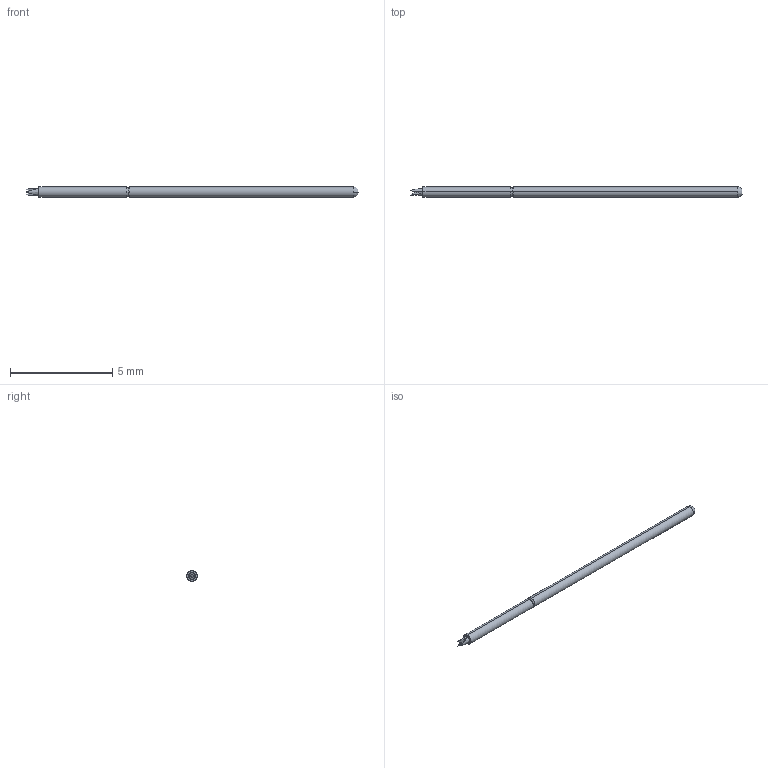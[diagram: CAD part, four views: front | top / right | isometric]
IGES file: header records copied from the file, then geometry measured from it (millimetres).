
Start section: SolidWorks IGES file using analytic representation for surfaces
Global section: file name: Z:\probe solid model mockups\Solidworks models\MEP-30 IGS files\MEP-30U RECD.IGS; native system: SolidWorks 2006 by SolidWorks Corporation; preprocessor: SolidWorks 2006 by SolidWorks Corporation; author: tsakatani; date: 071219.101556; units: inch
Bounding box: 16.26 x 0.51 x 0.51 mm (x, y, z)
Surface area: 25.8 mm2 (no closed solid volume)
Topology: 0 solids, 0 shells, 24 faces, 162 edges, 162 vertices
Faces by surface type: bspline 12, revolution 12
